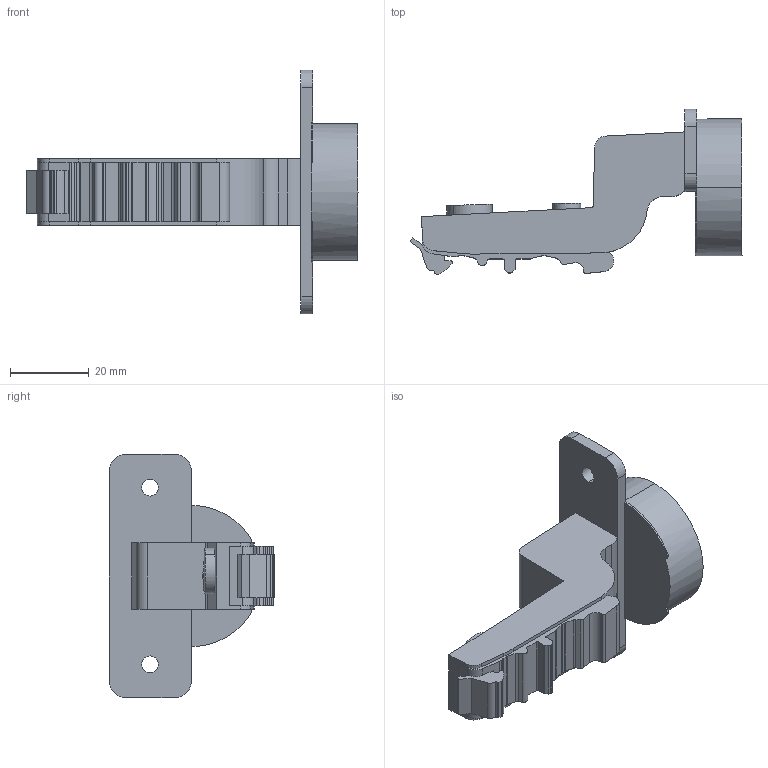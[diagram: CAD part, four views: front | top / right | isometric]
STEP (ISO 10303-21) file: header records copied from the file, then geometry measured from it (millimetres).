
FILE_DESCRIPTION (( 'STEP AP214' ), '1' );
FILE_NAME ('C82C675FA-Close.STEP', '2025-07-21T01:53:53', ( '微软用户' ), ( '微软中国' ), 'SwSTEP 2.0', 'SolidWorks 2021', '' );
FILE_SCHEMA (( 'AUTOMOTIVE_DESIGN' ));
Length unit declared in the file: millimetre
Products named in the file (1): C82C675FA-Close
Bounding box: 84.45 x 42.14 x 61.96 mm (x, y, z)
Volume: 33829.1 mm3; surface area: 10642.2 mm2
Topology: 1 solids, 1 shells, 124 faces, 361 edges, 242 vertices
Faces by surface type: cylinder 62, plane 62
Entity records: 4187 total; most frequent: CARTESIAN_POINT 746, DIRECTION 731, ORIENTED_EDGE 722, EDGE_CURVE 361, AXIS2_PLACEMENT_3D 251, VERTEX_POINT 242, LINE 229, VECTOR 229
